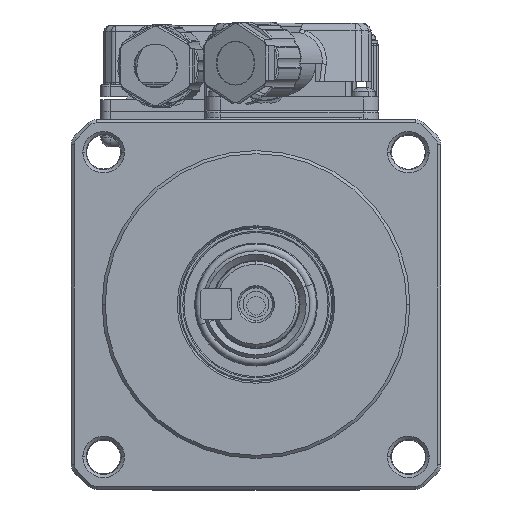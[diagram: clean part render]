
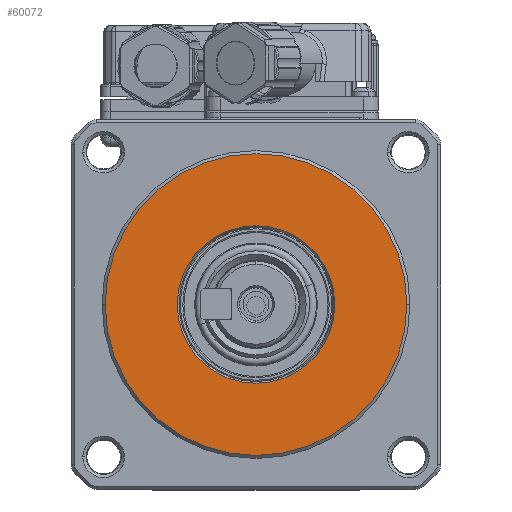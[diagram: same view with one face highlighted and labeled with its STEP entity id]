
A CAD part, top view. The second image highlights one B-rep face of the part: STEP entity #60072.
In plain terms, the highlighted planar face has unit normal (0, 0, 1).
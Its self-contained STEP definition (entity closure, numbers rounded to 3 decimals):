
#90 = DIRECTION ( 'NONE',  ( 0., 0., -1. ) ) ;
#196 = ORIENTED_EDGE ( 'NONE', *, *, #16598, .F. ) ;
#1901 = DIRECTION ( 'NONE',  ( 1., 0., 0. ) ) ;
#9740 = CIRCLE ( 'NONE', #19907, 24.5 ) ;
#10383 = DIRECTION ( 'NONE',  ( 0., 0., 1. ) ) ;
#12812 = DIRECTION ( 'NONE',  ( -1., 0., 0. ) ) ;
#13731 = DIRECTION ( 'NONE',  ( 0., 0., 1. ) ) ;
#16598 = EDGE_CURVE ( 'NONE', #75611, #41713, #48366, .T. ) ;
#16863 = EDGE_CURVE ( 'NONE', #73442, #48419, #77873, .T. ) ;
#17299 = CARTESIAN_POINT ( 'NONE',  ( 0., 0., 0. ) ) ;
#17991 = CARTESIAN_POINT ( 'NONE',  ( -24.5, 0., 0. ) ) ;
#19907 = AXIS2_PLACEMENT_3D ( 'NONE', #65602, #10383, #41111 ) ;
#21622 = DIRECTION ( 'NONE',  ( 1., 0., 0. ) ) ;
#25191 = AXIS2_PLACEMENT_3D ( 'NONE', #17299, #78549, #78157 ) ;
#26538 = CARTESIAN_POINT ( 'NONE',  ( 0., 0., 0. ) ) ;
#34131 = CIRCLE ( 'NONE', #25191, 12.789 ) ;
#36757 = FACE_BOUND ( 'NONE', #66873, .T. ) ;
#37145 = AXIS2_PLACEMENT_3D ( 'NONE', #49609, #90, #12812 ) ;
#39702 = ORIENTED_EDGE ( 'NONE', *, *, #68476, .F. ) ;
#41111 = DIRECTION ( 'NONE',  ( 1., 0., 0. ) ) ;
#41713 = VERTEX_POINT ( 'NONE', #71161 ) ;
#46079 = CARTESIAN_POINT ( 'NONE',  ( 0., 0., 0. ) ) ;
#47561 = CARTESIAN_POINT ( 'NONE',  ( 24.5, 0., 0. ) ) ;
#48366 = CIRCLE ( 'NONE', #75255, 12.789 ) ;
#48419 = VERTEX_POINT ( 'NONE', #47561 ) ;
#49609 = CARTESIAN_POINT ( 'NONE',  ( 0., 12.2, 0. ) ) ;
#50120 = EDGE_LOOP ( 'NONE', ( #61836, #60380 ) ) ;
#51093 = CARTESIAN_POINT ( 'NONE',  ( -12.789, 0., 0. ) ) ;
#54834 = PLANE ( 'NONE',  #37145 ) ;
#60072 = ADVANCED_FACE ( 'NONE', ( #36757, #73263 ), #54834, .F. ) ;
#60380 = ORIENTED_EDGE ( 'NONE', *, *, #66815, .T. ) ;
#61836 = ORIENTED_EDGE ( 'NONE', *, *, #16863, .T. ) ;
#64621 = DIRECTION ( 'NONE',  ( 0., 0., 1. ) ) ;
#65602 = CARTESIAN_POINT ( 'NONE',  ( 0., 0., 0. ) ) ;
#66815 = EDGE_CURVE ( 'NONE', #48419, #73442, #9740, .T. ) ;
#66873 = EDGE_LOOP ( 'NONE', ( #39702, #196 ) ) ;
#68476 = EDGE_CURVE ( 'NONE', #41713, #75611, #34131, .T. ) ;
#71161 = CARTESIAN_POINT ( 'NONE',  ( 12.789, 0., 0. ) ) ;
#73263 = FACE_OUTER_BOUND ( 'NONE', #50120, .T. ) ;
#73442 = VERTEX_POINT ( 'NONE', #17991 ) ;
#74051 = AXIS2_PLACEMENT_3D ( 'NONE', #46079, #13731, #21622 ) ;
#75255 = AXIS2_PLACEMENT_3D ( 'NONE', #26538, #64621, #1901 ) ;
#75611 = VERTEX_POINT ( 'NONE', #51093 ) ;
#77873 = CIRCLE ( 'NONE', #74051, 24.5 ) ;
#78157 = DIRECTION ( 'NONE',  ( 1., 0., 0. ) ) ;
#78549 = DIRECTION ( 'NONE',  ( 0., 0., 1. ) ) ;
